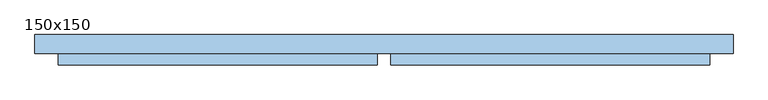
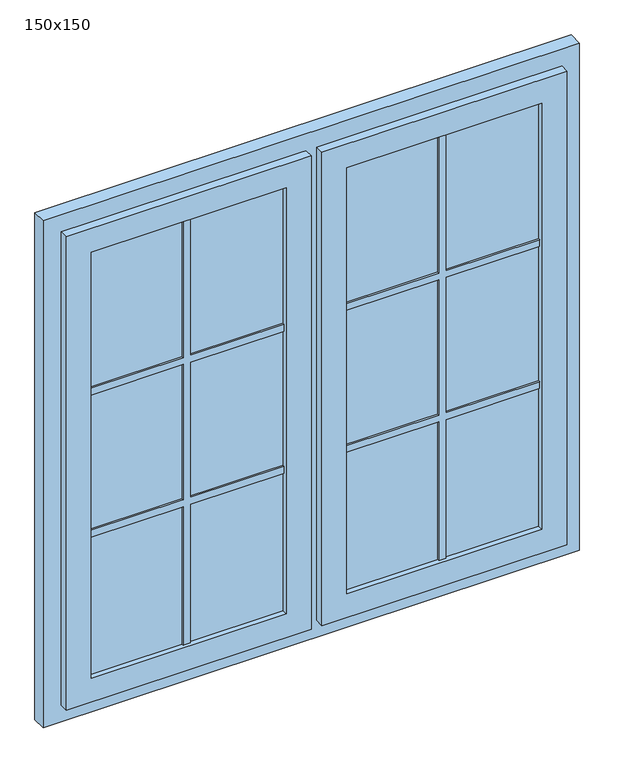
"""IFC4 building model written with IfcOpenShell, lengths in millimetres: window geometry, OKNO_2X_W_SZ : 150x150."""

from ifc_helpers import new_model, si_unit, frame, origin, place, context, project, spatial, polyline, outline, extrude, faceted_brep, source, transform, mapped, element, save


def window_150x150_14e0f4ea(model_context):
    return source(origin(), model_context, "Body", "SolidModel", [
        extrude(outline(polyline([(2350.0, 750.0), (2350.0, -750.0), (850.0, -750.0), (850.0, 750.0), (2350.0, 750.0)]), holes=[polyline([(2280.0, 680.0), (920.0, 680.0), (920.0, 35.0), (2280.0, 35.0), (2280.0, 680.0)]), polyline([(2280.0, -35.0), (920.0, -35.0), (920.0, -680.0), (2280.0, -680.0), (2280.0, -35.0)])]), frame((0.0, 50.0, 0.0), z_axis=(0.0, 1.0, 0.0), x_axis=(0.0, 0.0, 1.0)), (0.0, 0.0, 1.0), 40.0),
        extrude(outline(polyline([(1820.0, -367.5), (1820.0, -630.0), (1800.0, -630.0), (1800.0, -367.5), (1400.0, -367.5), (1400.0, -630.0), (1380.0, -630.0), (1380.0, -367.5), (970.0, -367.5), (970.0, -347.5), (1380.0, -347.5), (1380.0, -85.0), (1400.0, -85.0), (1400.0, -347.5), (1800.0, -347.5), (1800.0, -85.0), (1820.0, -85.0), (1820.0, -347.5), (2230.0, -347.5), (2230.0, -367.5), (1820.0, -367.5)])), frame((0.0, 35.0, 0.0), z_axis=(0.0, 1.0, 0.0), x_axis=(0.0, 0.0, 1.0)), (0.0, 0.0, 1.0), 20.0),
        extrude(outline(polyline([(1380.0, 367.5), (1380.0, 630.0), (1400.0, 630.0), (1400.0, 367.5), (1800.0, 367.5), (1800.0, 630.0), (1820.0, 630.0), (1820.0, 367.5), (2230.0, 367.5), (2230.0, 347.5), (1820.0, 347.5), (1820.0, 85.0), (1800.0, 85.0), (1800.0, 347.5), (1400.0, 347.5), (1400.0, 85.0), (1380.0, 85.0), (1380.0, 347.5), (970.0, 347.5), (970.0, 367.5), (1380.0, 367.5)])), frame((0.0, 35.0, 0.0), z_axis=(0.0, 1.0, 0.0), x_axis=(0.0, 0.0, 1.0)), (0.0, 0.0, 1.0), 20.0),
        extrude(outline(polyline([(-85.0, 50.0), (-85.0, 40.0), (-630.0, 40.0), (-630.0, 50.0), (-85.0, 50.0)])), frame((0.0, 0.0, 970.0), z_axis=(0.0, 0.0, 1.0), x_axis=(1.0, 0.0, 0.0)), (0.0, 0.0, 1.0), 1260.0),
        extrude(outline(polyline([(630.0, 50.0), (630.0, 40.0), (85.0, 40.0), (85.0, 50.0), (630.0, 50.0)])), frame((0.0, 0.0, 970.0), z_axis=(0.0, 0.0, 1.0), x_axis=(1.0, 0.0, 0.0)), (0.0, 0.0, 1.0), 1260.0),
        faceted_brep([(-85.0, 25.0, 2230.0), (-85.0, 65.0, 2230.0), (-85.0, 65.0, 970.0), (-85.0, 25.0, 970.0), (-35.0, 65.0, 2280.0), (-35.0, 65.0, 920.0), (-680.0, 65.0, 920.0), (-680.0, 65.0, 2280.0), (-630.0, 65.0, 2230.0), (-630.0, 65.0, 970.0), (-630.0, 25.0, 970.0), (-700.0, 25.0, 2300.0), (-700.0, 25.0, 900.0), (-15.0, 25.0, 900.0), (-15.0, 25.0, 2300.0), (-630.0, 25.0, 2230.0), (-15.0, 50.0, 2300.0), (-15.0, 50.0, 900.0), (-700.0, 50.0, 900.0), (-700.0, 50.0, 2300.0), (-680.0, 50.0, 2280.0), (-680.0, 50.0, 920.0), (-35.0, 50.0, 920.0), (-35.0, 50.0, 2280.0)], [[[0, 1, 2, 3]], [[4, 5, 6, 7], [8, 9, 2, 1]], [[3, 2, 9, 10]], [[11, 12, 13, 14], [0, 3, 10, 15]], [[16, 14, 13, 17]], [[17, 13, 12, 18]], [[16, 17, 18, 19], [20, 21, 22, 23]], [[4, 23, 22, 5]], [[5, 22, 21, 6]], [[10, 9, 8, 15]], [[18, 12, 11, 19]], [[6, 21, 20, 7]], [[15, 8, 1, 0]], [[19, 11, 14, 16]], [[7, 20, 23, 4]]]),
        faceted_brep([(630.0, 25.0, 2230.0), (630.0, 65.0, 2230.0), (630.0, 65.0, 970.0), (630.0, 25.0, 970.0), (85.0, 65.0, 970.0), (85.0, 25.0, 970.0), (35.0, 65.0, 920.0), (35.0, 65.0, 2280.0), (680.0, 65.0, 2280.0), (680.0, 65.0, 920.0), (85.0, 65.0, 2230.0), (85.0, 25.0, 2230.0), (700.0, 25.0, 900.0), (700.0, 25.0, 2300.0), (15.0, 25.0, 2300.0), (15.0, 25.0, 900.0), (700.0, 50.0, 2300.0), (700.0, 50.0, 900.0), (15.0, 50.0, 900.0), (15.0, 50.0, 2300.0), (680.0, 50.0, 920.0), (680.0, 50.0, 2280.0), (35.0, 50.0, 2280.0), (35.0, 50.0, 920.0)], [[[0, 1, 2, 3]], [[3, 2, 4, 5]], [[6, 7, 8, 9], [2, 1, 10, 4]], [[5, 4, 10, 11]], [[12, 13, 14, 15], [5, 11, 0, 3]], [[16, 13, 12, 17]], [[17, 12, 15, 18]], [[18, 15, 14, 19]], [[18, 19, 16, 17], [20, 21, 22, 23]], [[8, 21, 20, 9]], [[9, 20, 23, 6]], [[6, 23, 22, 7]], [[11, 10, 1, 0]], [[19, 14, 13, 16]], [[7, 22, 21, 8]]]),
    ])


if __name__ == "__main__":
    model = new_model("IFC4")
    model_context = context("Model", 3, world=origin())
    ifc_project = project(units=[si_unit("LENGTHUNIT", "METRE", prefix="MILLI")], contexts=[model_context])
    site = spatial("IfcSite", under=ifc_project)
    building = spatial("IfcBuilding", under=site)
    placement = place(None, origin())
    window_150x150_shape = window_150x150_14e0f4ea(model_context)
    element("IfcWindow", 1, ObjectType="OKNO_2X_W_SZ : 150x150", at=placement, inside=building, context=model_context, shape_type="MappedRepresentation", body=[
        mapped(window_150x150_shape, transform((0.0, 0.0, 0.0), x_axis=(1.0, 0.0, 0.0), y_axis=(0.0, 1.0, 0.0), z_axis=(0.0, 0.0, 1.0))),
    ])
    save(model, "model.ifc")
